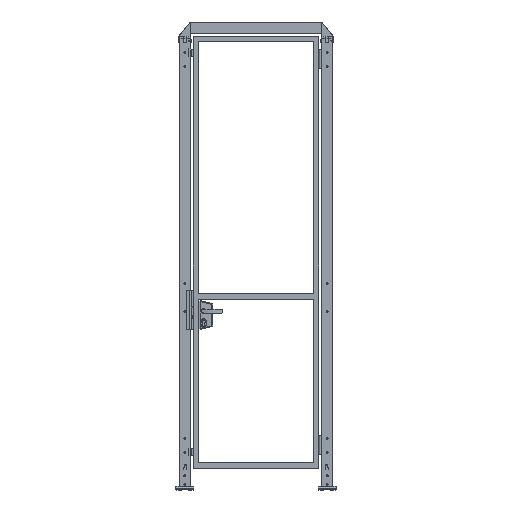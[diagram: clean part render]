
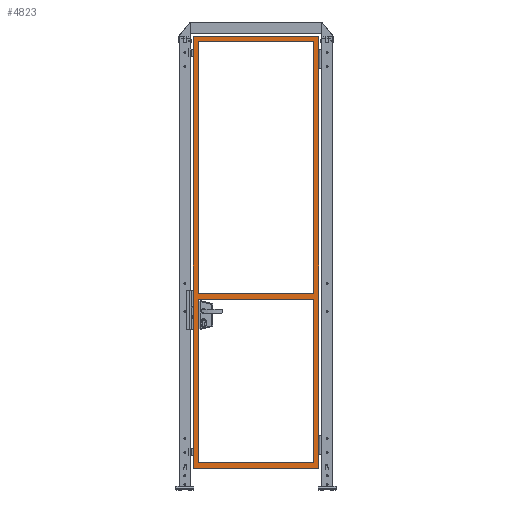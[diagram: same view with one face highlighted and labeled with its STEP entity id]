
A CAD part, top view. The second image highlights one B-rep face of the part: STEP entity #4823.
In plain terms, the highlighted planar face has unit normal (0, 0, 1).
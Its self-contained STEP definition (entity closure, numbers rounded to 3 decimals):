
#4823=ADVANCED_FACE('',(#9878,#9879,#9880),#9881,.F.);
#9878=FACE_BOUND('',#17852,.T.);
#9879=FACE_OUTER_BOUND('',#17853,.T.);
#9880=FACE_BOUND('',#17854,.T.);
#9881=PLANE('',#17855);
#17852=EDGE_LOOP('',(#32088,#32089,#32090,#32091));
#17853=EDGE_LOOP('',(#32092,#32093,#32094,#32095));
#17854=EDGE_LOOP('',(#32096,#32097,#32098,#32099));
#17855=AXIS2_PLACEMENT_3D('',#32100,#32101,#32102);
#32088=ORIENTED_EDGE('',*,*,#37969,.F.);
#32089=ORIENTED_EDGE('',*,*,#37975,.T.);
#32090=ORIENTED_EDGE('',*,*,#37997,.T.);
#32091=ORIENTED_EDGE('',*,*,#38002,.F.);
#32092=ORIENTED_EDGE('',*,*,#38013,.F.);
#32093=ORIENTED_EDGE('',*,*,#38007,.F.);
#32094=ORIENTED_EDGE('',*,*,#37977,.F.);
#32095=ORIENTED_EDGE('',*,*,#38011,.F.);
#32096=ORIENTED_EDGE('',*,*,#37999,.F.);
#32097=ORIENTED_EDGE('',*,*,#37994,.F.);
#32098=ORIENTED_EDGE('',*,*,#38005,.T.);
#32099=ORIENTED_EDGE('',*,*,#38014,.T.);
#32100=CARTESIAN_POINT('',(365.0,135.0,15.0));
#32101=DIRECTION('',(0.,0.0,-1.0));
#32102=DIRECTION('',(-1.0,0.0,0.));
#37969=EDGE_CURVE('',#46828,#46831,#46832,.T.);
#37975=EDGE_CURVE('',#46828,#46839,#46841,.T.);
#37977=EDGE_CURVE('',#46843,#46844,#46845,.T.);
#37994=EDGE_CURVE('',#46871,#46869,#46873,.T.);
#37997=EDGE_CURVE('',#46839,#46875,#46877,.T.);
#37999=EDGE_CURVE('',#46869,#46879,#46880,.T.);
#38002=EDGE_CURVE('',#46831,#46875,#46883,.T.);
#38005=EDGE_CURVE('',#46871,#46885,#46887,.T.);
#38007=EDGE_CURVE('',#46844,#46889,#46890,.T.);
#38011=EDGE_CURVE('',#46893,#46843,#46895,.T.);
#38013=EDGE_CURVE('',#46889,#46893,#46897,.T.);
#38014=EDGE_CURVE('',#46885,#46879,#46898,.T.);
#46828=VERTEX_POINT('',#60680);
#46831=VERTEX_POINT('',#60684);
#46832=LINE('',#60685,#60686);
#46839=VERTEX_POINT('',#60696);
#46841=LINE('',#60699,#60700);
#46843=VERTEX_POINT('',#60702);
#46844=VERTEX_POINT('',#60703);
#46845=LINE('',#60704,#60705);
#46869=VERTEX_POINT('',#60741);
#46871=VERTEX_POINT('',#60744);
#46873=LINE('',#60747,#60748);
#46875=VERTEX_POINT('',#60750);
#46877=LINE('',#60753,#60754);
#46879=VERTEX_POINT('',#60756);
#46880=LINE('',#60757,#60758);
#46883=LINE('',#60762,#60763);
#46885=VERTEX_POINT('',#60765);
#46887=LINE('',#60768,#60769);
#46889=VERTEX_POINT('',#60771);
#46890=LINE('',#60772,#60773);
#46893=VERTEX_POINT('',#60777);
#46895=LINE('',#60780,#60781);
#46897=LINE('',#60783,#60784);
#46898=LINE('',#60785,#60786);
#60680=CARTESIAN_POINT('',(685.0,2490.0,15.0));
#60684=CARTESIAN_POINT('',(45.,2490.0,15.0));
#60685=CARTESIAN_POINT('',(365.0,2490.0,15.0));
#60686=VECTOR('',#67067,1.0);
#60696=CARTESIAN_POINT('',(685.0,1090.0,15.0));
#60699=CARTESIAN_POINT('',(685.0,1320.0,15.0));
#60700=VECTOR('',#67072,1.0);
#60702=CARTESIAN_POINT('',(15.0,120.0,15.0));
#60703=CARTESIAN_POINT('',(15.,2520.0,15.0));
#60704=CARTESIAN_POINT('',(15.0,135.0,15.0));
#60705=VECTOR('',#67073,1.0);
#60741=CARTESIAN_POINT('',(45.,1060.0,15.0));
#60744=CARTESIAN_POINT('',(685.0,1060.0,15.0));
#60747=CARTESIAN_POINT('',(365.0,1060.0,15.0));
#60748=VECTOR('',#67088,1.0);
#60750=CARTESIAN_POINT('',(45.,1090.0,15.0));
#60753=CARTESIAN_POINT('',(365.0,1090.0,15.0));
#60754=VECTOR('',#67090,1.0);
#60756=CARTESIAN_POINT('',(45.0,150.0,15.0));
#60757=CARTESIAN_POINT('',(45.,1320.0,15.0));
#60758=VECTOR('',#67091,1.0);
#60762=CARTESIAN_POINT('',(45.,1320.0,15.0));
#60763=VECTOR('',#67093,1.0);
#60765=CARTESIAN_POINT('',(685.0,150.0,15.0));
#60768=CARTESIAN_POINT('',(685.0,1320.0,15.0));
#60769=VECTOR('',#67095,1.0);
#60771=CARTESIAN_POINT('',(715.0,2520.0,15.0));
#60772=CARTESIAN_POINT('',(30.,2520.0,15.0));
#60773=VECTOR('',#67096,1.0);
#60777=CARTESIAN_POINT('',(715.0,120.0,15.0));
#60780=CARTESIAN_POINT('',(365.0,120.0,15.0));
#60781=VECTOR('',#67099,1.0);
#60783=CARTESIAN_POINT('',(715.0,1320.0,15.0));
#60784=VECTOR('',#67100,1.0);
#60785=CARTESIAN_POINT('',(365.0,150.0,15.0));
#60786=VECTOR('',#67101,1.0);
#67067=DIRECTION('',(-1.0,0.0,0.));
#67072=DIRECTION('',(0.,-1.0,0.));
#67073=DIRECTION('',(0.0,1.0,0.0));
#67088=DIRECTION('',(-1.0,0.0,0.));
#67090=DIRECTION('',(-1.0,0.0,0.));
#67091=DIRECTION('',(0.,-1.0,0.));
#67093=DIRECTION('',(0.,-1.0,0.));
#67095=DIRECTION('',(0.,-1.0,0.));
#67096=DIRECTION('',(1.0,0.,0.));
#67099=DIRECTION('',(-1.0,0.0,0.));
#67100=DIRECTION('',(0.,-1.0,0.));
#67101=DIRECTION('',(-1.0,0.0,0.));
